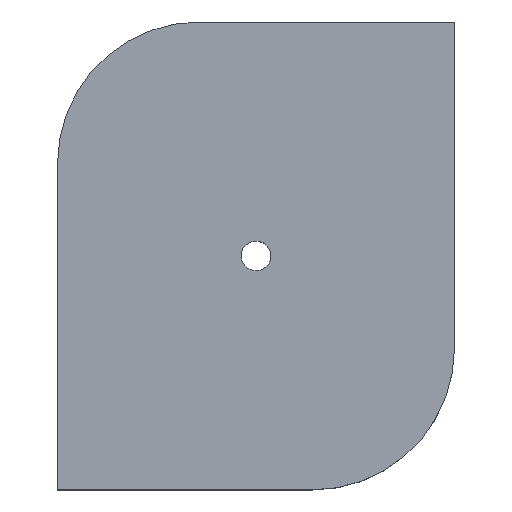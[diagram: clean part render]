
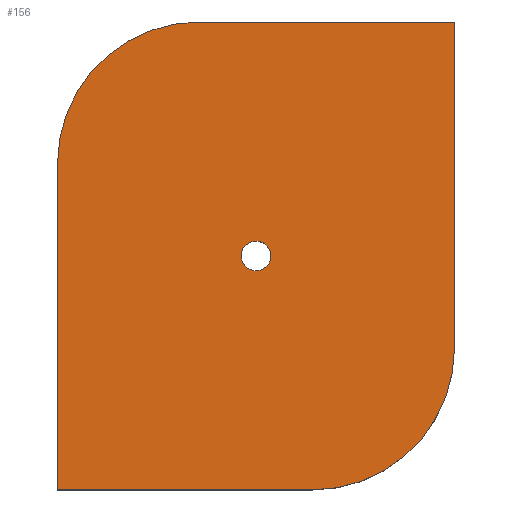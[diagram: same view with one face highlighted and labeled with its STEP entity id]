
A CAD part, top view. The second image highlights one B-rep face of the part: STEP entity #156.
In plain terms, the highlighted planar face has unit normal (0, 0, 1).
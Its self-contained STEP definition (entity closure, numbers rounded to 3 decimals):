
#63=CARTESIAN_POINT('Vertex',(52.325,68.008,27.)) ;
#77=CARTESIAN_POINT('Vertex',(59.675,63.992,27.)) ;
#80=CARTESIAN_POINT('Axis2P3D Location',(56.,66.,27.)) ;
#92=CARTESIAN_POINT('Axis2P3D Location',(0.,0.,27.)) ;
#97=CARTESIAN_POINT('Line Origine',(0.,46.,27.)) ;
#101=CARTESIAN_POINT('Vertex',(0.,92.,27.)) ;
#103=CARTESIAN_POINT('Vertex',(0.,0.,27.)) ;
#106=CARTESIAN_POINT('Line Origine',(36.,0.,27.)) ;
#110=CARTESIAN_POINT('Vertex',(72.,0.,27.)) ;
#113=CARTESIAN_POINT('Axis2P3D Location',(72.,40.,27.)) ;
#117=CARTESIAN_POINT('Vertex',(112.,40.,27.)) ;
#120=CARTESIAN_POINT('Line Origine',(112.,86.,27.)) ;
#124=CARTESIAN_POINT('Vertex',(112.,132.,27.)) ;
#127=CARTESIAN_POINT('Line Origine',(76.,132.,27.)) ;
#131=CARTESIAN_POINT('Vertex',(40.,132.,27.)) ;
#134=CARTESIAN_POINT('Axis2P3D Location',(40.,92.,27.)) ;
#147=CARTESIAN_POINT('Axis2P3D Location',(56.,66.,27.)) ;
#81=DIRECTION('Axis2P3D Direction',(0.,-0.,-1.)) ;
#93=DIRECTION('Axis2P3D Direction',(0.,0.,1.)) ;
#94=DIRECTION('Axis2P3D XDirection',(1.,0.,0.)) ;
#98=DIRECTION('Vector Direction',(0.,-1.,0.)) ;
#107=DIRECTION('Vector Direction',(1.,0.,0.)) ;
#114=DIRECTION('Axis2P3D Direction',(0.,0.,1.)) ;
#121=DIRECTION('Vector Direction',(0.,1.,0.)) ;
#128=DIRECTION('Vector Direction',(-1.,0.,0.)) ;
#135=DIRECTION('Axis2P3D Direction',(0.,0.,1.)) ;
#148=DIRECTION('Axis2P3D Direction',(0.,0.,1.)) ;
#82=AXIS2_PLACEMENT_3D('Circle Axis2P3D',#80,#81,$) ;
#95=AXIS2_PLACEMENT_3D('Plane Axis2P3D',#92,#93,#94) ;
#115=AXIS2_PLACEMENT_3D('Circle Axis2P3D',#113,#114,$) ;
#136=AXIS2_PLACEMENT_3D('Circle Axis2P3D',#134,#135,$) ;
#149=AXIS2_PLACEMENT_3D('Circle Axis2P3D',#147,#148,$) ;
#140=ORIENTED_EDGE('',*,*,#105,.T.) ;
#141=ORIENTED_EDGE('',*,*,#112,.T.) ;
#142=ORIENTED_EDGE('',*,*,#119,.F.) ;
#143=ORIENTED_EDGE('',*,*,#126,.T.) ;
#144=ORIENTED_EDGE('',*,*,#133,.T.) ;
#145=ORIENTED_EDGE('',*,*,#138,.F.) ;
#153=ORIENTED_EDGE('',*,*,#151,.F.) ;
#154=ORIENTED_EDGE('',*,*,#84,.F.) ;
#155=FACE_BOUND('',#152,.T.) ;
#99=VECTOR('Line Direction',#98,1.) ;
#108=VECTOR('Line Direction',#107,1.) ;
#122=VECTOR('Line Direction',#121,1.) ;
#129=VECTOR('Line Direction',#128,1.) ;
#156=ADVANCED_FACE('PartBody',(#146,#155),#96,.T.) ;
#83=CIRCLE('generated circle',#82,4.188) ;
#116=CIRCLE('generated circle',#115,40.) ;
#137=CIRCLE('generated circle',#136,40.) ;
#150=CIRCLE('generated circle',#149,4.188) ;
#84=EDGE_CURVE('',#78,#64,#83,.F.) ;
#105=EDGE_CURVE('',#102,#104,#100,.T.) ;
#112=EDGE_CURVE('',#104,#111,#109,.T.) ;
#119=EDGE_CURVE('',#118,#111,#116,.F.) ;
#126=EDGE_CURVE('',#118,#125,#123,.T.) ;
#133=EDGE_CURVE('',#125,#132,#130,.T.) ;
#138=EDGE_CURVE('',#102,#132,#137,.F.) ;
#151=EDGE_CURVE('',#64,#78,#150,.T.) ;
#139=EDGE_LOOP('',(#140,#141,#142,#143,#144,#145)) ;
#152=EDGE_LOOP('',(#153,#154)) ;
#146=FACE_OUTER_BOUND('',#139,.T.) ;
#100=LINE('Line',#97,#99) ;
#109=LINE('Line',#106,#108) ;
#123=LINE('Line',#120,#122) ;
#130=LINE('Line',#127,#129) ;
#96=PLANE('',#95) ;
#64=VERTEX_POINT('',#63) ;
#78=VERTEX_POINT('',#77) ;
#102=VERTEX_POINT('',#101) ;
#104=VERTEX_POINT('',#103) ;
#111=VERTEX_POINT('',#110) ;
#118=VERTEX_POINT('',#117) ;
#125=VERTEX_POINT('',#124) ;
#132=VERTEX_POINT('',#131) ;
